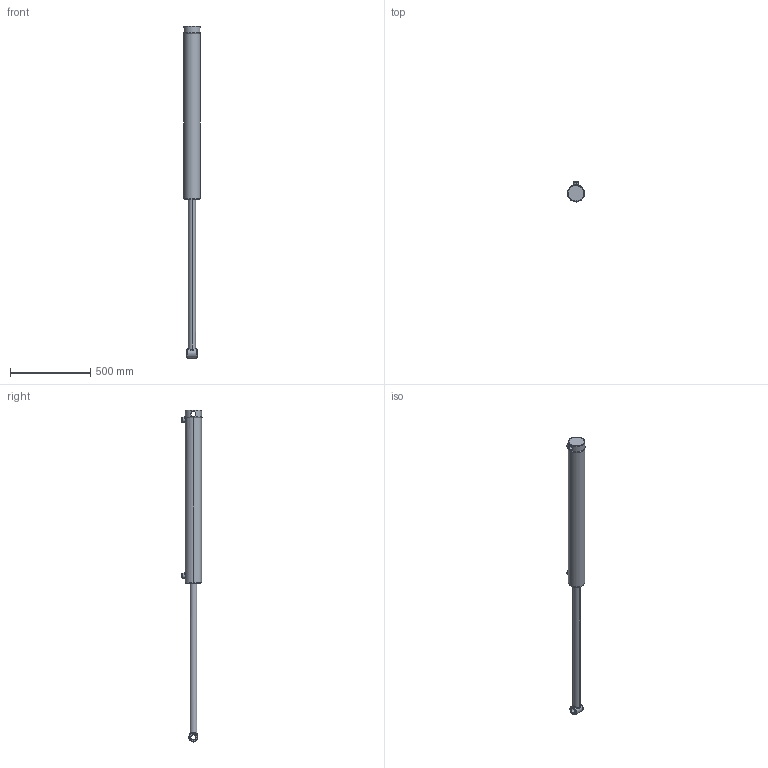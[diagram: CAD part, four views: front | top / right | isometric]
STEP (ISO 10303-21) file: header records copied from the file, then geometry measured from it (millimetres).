
FILE_DESCRIPTION (( 'STEP AP203' ), '1' );
FILE_NAME ('SB-C350175x914 (36) extended.STEP', '2015-04-01T10:49:52', ( '' ), ( '' ), 'SwSTEP 2.0', 'SolidWorks 2015', '' );
FILE_SCHEMA (( 'CONFIG_CONTROL_DESIGN' ));
Length unit declared in the file: millimetre
Products named in the file (6): 18 spare_36; spare 18; SB-C350175x914 (36) extended; SB-C350175x457 (18) BODY_36; 3.5 INCH CIRCLIP; SB-C350175x457 (18) BODY
Assembly tree (5 placements, depth 3):
  SB-C350175x914 (36) extended
    SB-C350175x457 (18) BODY
      SB-C350175x457 (18) BODY_36
      3.5 INCH CIRCLIP
    spare 18
      18 spare_36
Bounding box: 107.6 x 124.6 x 2062.57 mm (x, y, z)
Volume: 9810055.3 mm3; surface area: 593233.3 mm2
Topology: 3 solids, 3 shells, 114 faces, 269 edges, 167 vertices
Faces by surface type: cylinder 49, plane 23, bspline 22, cone 12, torus 8
Entity records: 13049 total; most frequent: CARTESIAN_POINT 9929, ORIENTED_EDGE 530, DIRECTION 518, EDGE_CURVE 265, AXIS2_PLACEMENT_3D 220, VERTEX_POINT 167, EDGE_LOOP 134, CIRCLE 118
